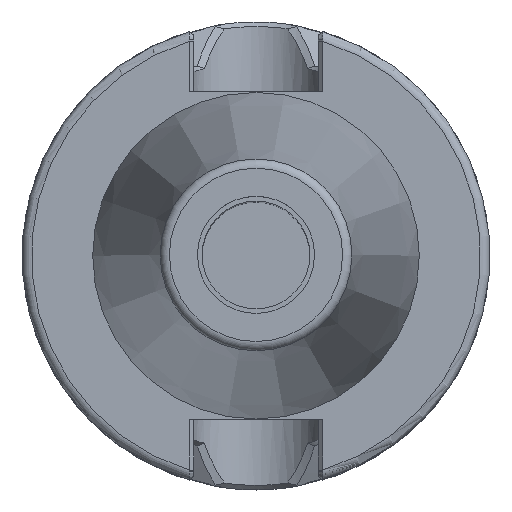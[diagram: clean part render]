
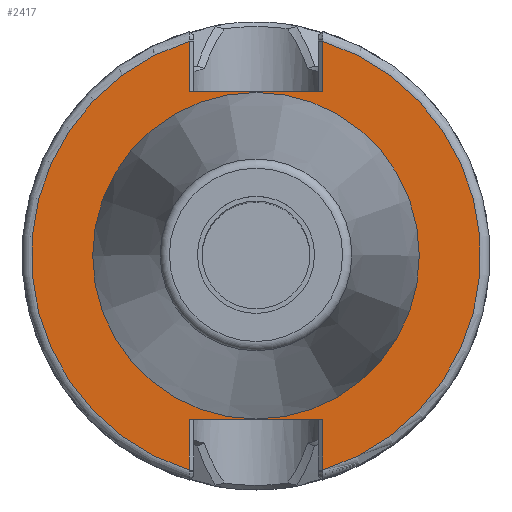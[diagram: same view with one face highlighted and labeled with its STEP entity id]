
A CAD part, top view. The second image highlights one B-rep face of the part: STEP entity #2417.
In plain terms, the highlighted planar face has unit normal (0, 0, 1).
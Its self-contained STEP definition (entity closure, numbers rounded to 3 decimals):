
#67=FACE_BOUND('',#463,.T.);
#158=CIRCLE('',#2656,48.);
#171=CIRCLE('',#2679,48.);
#172=CIRCLE('',#2685,34.9);
#173=CIRCLE('',#2686,34.9);
#328=FACE_OUTER_BOUND('',#462,.T.);
#462=EDGE_LOOP('',(#2065,#2066,#2067,#2068,#2069,#2070,#2071,#2072));
#463=EDGE_LOOP('',(#2073,#2074));
#679=LINE('',#3903,#810);
#697=LINE('',#4518,#828);
#704=LINE('',#4750,#835);
#712=LINE('',#5119,#843);
#713=LINE('',#5120,#844);
#714=LINE('',#5121,#845);
#810=VECTOR('',#3083,10.);
#828=VECTOR('',#3111,10.);
#835=VECTOR('',#3172,10.);
#843=VECTOR('',#3188,10.);
#844=VECTOR('',#3189,10.);
#845=VECTOR('',#3190,10.);
#1009=VERTEX_POINT('',#3900);
#1010=VERTEX_POINT('',#3902);
#1052=VERTEX_POINT('',#4511);
#1055=VERTEX_POINT('',#4516);
#1058=VERTEX_POINT('',#4585);
#1084=VERTEX_POINT('',#4726);
#1087=VERTEX_POINT('',#4749);
#1101=VERTEX_POINT('',#5118);
#1102=VERTEX_POINT('',#5122);
#1103=VERTEX_POINT('',#5123);
#1317=EDGE_CURVE('',#1009,#1010,#679,.T.);
#1375=EDGE_CURVE('',#1055,#1052,#697,.T.);
#1383=EDGE_CURVE('',#1058,#1009,#158,.T.);
#1419=EDGE_CURVE('',#1052,#1084,#171,.T.);
#1423=EDGE_CURVE('',#1084,#1087,#704,.T.);
#1449=EDGE_CURVE('',#1101,#1058,#712,.T.);
#1450=EDGE_CURVE('',#1101,#1087,#713,.T.);
#1451=EDGE_CURVE('',#1055,#1010,#714,.T.);
#1452=EDGE_CURVE('',#1102,#1103,#172,.T.);
#1453=EDGE_CURVE('',#1103,#1102,#173,.T.);
#2065=ORIENTED_EDGE('',*,*,#1317,.F.);
#2066=ORIENTED_EDGE('',*,*,#1383,.F.);
#2067=ORIENTED_EDGE('',*,*,#1449,.F.);
#2068=ORIENTED_EDGE('',*,*,#1450,.T.);
#2069=ORIENTED_EDGE('',*,*,#1423,.F.);
#2070=ORIENTED_EDGE('',*,*,#1419,.F.);
#2071=ORIENTED_EDGE('',*,*,#1375,.F.);
#2072=ORIENTED_EDGE('',*,*,#1451,.T.);
#2073=ORIENTED_EDGE('',*,*,#1452,.F.);
#2074=ORIENTED_EDGE('',*,*,#1453,.F.);
#2302=PLANE('',#2684);
#2417=ADVANCED_FACE('',(#328,#67),#2302,.T.);
#2656=AXIS2_PLACEMENT_3D('',#4590,#3116,#3117);
#2679=AXIS2_PLACEMENT_3D('',#4727,#3167,#3168);
#2684=AXIS2_PLACEMENT_3D('',#5117,#3186,#3187);
#2685=AXIS2_PLACEMENT_3D('',#5124,#3191,#3192);
#2686=AXIS2_PLACEMENT_3D('',#5125,#3193,#3194);
#3083=DIRECTION('',(0.,-1.,0.));
#3111=DIRECTION('',(0.,1.,0.));
#3116=DIRECTION('center_axis',(0.,0.,-1.));
#3117=DIRECTION('ref_axis',(-1.,0.,0.));
#3167=DIRECTION('center_axis',(0.,0.,-1.));
#3168=DIRECTION('ref_axis',(-1.,0.,0.));
#3172=DIRECTION('',(0.,1.,0.));
#3186=DIRECTION('center_axis',(0.,0.,1.));
#3187=DIRECTION('ref_axis',(1.,0.,0.));
#3188=DIRECTION('',(0.,-1.,0.));
#3189=DIRECTION('',(1.,0.,0.));
#3190=DIRECTION('',(-1.,0.,0.));
#3191=DIRECTION('center_axis',(0.,0.,1.));
#3192=DIRECTION('ref_axis',(1.,0.,0.));
#3193=DIRECTION('center_axis',(0.,0.,1.));
#3194=DIRECTION('ref_axis',(1.,0.,0.));
#3900=CARTESIAN_POINT('',(-14.3,45.82,-106.));
#3902=CARTESIAN_POINT('',(-14.3,35.,-106.));
#3903=CARTESIAN_POINT('',(-14.3,25.,-106.));
#4511=CARTESIAN_POINT('',(14.3,45.82,-106.));
#4516=CARTESIAN_POINT('',(14.3,35.,-106.));
#4518=CARTESIAN_POINT('',(14.3,25.,-106.));
#4585=CARTESIAN_POINT('',(-14.3,-45.82,-106.));
#4590=CARTESIAN_POINT('Origin',(0.,0.,-106.));
#4726=CARTESIAN_POINT('',(14.3,-45.82,-106.));
#4727=CARTESIAN_POINT('Origin',(0.,0.,-106.));
#4749=CARTESIAN_POINT('',(14.3,-35.,-106.));
#4750=CARTESIAN_POINT('',(14.3,-25.,-106.));
#5117=CARTESIAN_POINT('Origin',(34.9,0.,-106.));
#5118=CARTESIAN_POINT('',(-14.3,-35.,-106.));
#5119=CARTESIAN_POINT('',(-14.3,-25.,-106.));
#5120=CARTESIAN_POINT('',(17.45,-35.,-106.));
#5121=CARTESIAN_POINT('',(17.45,35.,-106.));
#5122=CARTESIAN_POINT('',(34.9,0.,-106.));
#5123=CARTESIAN_POINT('',(-34.9,0.,-106.));
#5124=CARTESIAN_POINT('Origin',(0.,0.,-106.));
#5125=CARTESIAN_POINT('Origin',(0.,0.,-106.));
